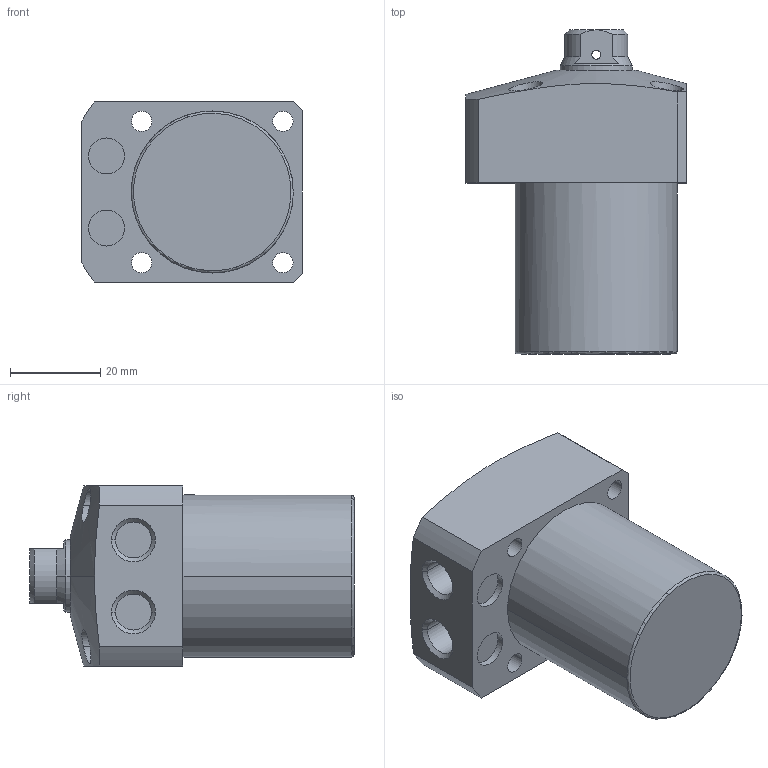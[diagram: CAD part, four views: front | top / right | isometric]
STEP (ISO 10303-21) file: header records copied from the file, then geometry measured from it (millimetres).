
FILE_DESCRIPTION((' '),'2;1');
FILE_NAME( 'TLL-036CB-030.STEP.stp', '2025-10-24T16:39:38', (' '), ('--- Datakit www.datakit.com---'), ' Datakit CrossCadWare V2024.1 Dec 21 2023', 'Mastercam 2025', ' ');
FILE_SCHEMA(('AUTOMOTIVE_DESIGN { 1 0 10303 214 1 1 1 1 }'));
Length unit declared in the file: millimetre
Products named in the file (1): TLL-036CB-030
Bounding box: 49 x 72 x 40 mm (x, y, z)
Volume: 80099.4 mm3; surface area: 14505.8 mm2
Topology: 1 solids, 1 shells, 76 faces, 227 edges, 162 vertices
Faces by surface type: cylinder 38, plane 22, cone 14, torus 2
Entity records: 5612 total; most frequent: CARTESIAN_POINT 3460, DIRECTION 454, ORIENTED_EDGE 450, EDGE_CURVE 225, AXIS2_PLACEMENT_3D 194, VERTEX_POINT 162, CIRCLE 117, EDGE_LOOP 99
